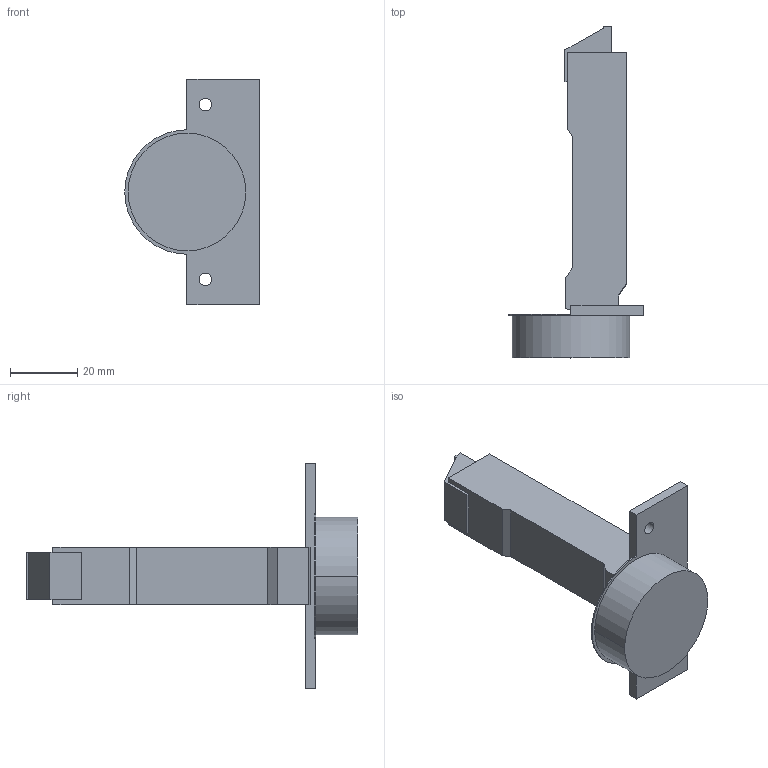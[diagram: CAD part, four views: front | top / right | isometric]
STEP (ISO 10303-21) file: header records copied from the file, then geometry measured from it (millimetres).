
FILE_DESCRIPTION (( 'STEP AP214' ), '1' );
FILE_NAME ('Scharnier T Click-on 95° H_BB, K03.step', '2018-10-02T12:11:58', ( '' ), ( '' ), 'SwSTEP 2.0', 'SolidWorks 2017', '' );
FILE_SCHEMA (( 'AUTOMOTIVE_DESIGN' ));
Length unit declared in the file: millimetre
Products named in the file (1): Scharnier T Click-on 95° H_BB, K03
Bounding box: 40 x 98.7 x 67 mm (x, y, z)
Volume: 38694.7 mm3; surface area: 11465.1 mm2
Topology: 1 solids, 1 shells, 46 faces, 120 edges, 80 vertices
Faces by surface type: plane 33, cylinder 13
Entity records: 1452 total; most frequent: CARTESIAN_POINT 247, DIRECTION 240, ORIENTED_EDGE 240, EDGE_CURVE 120, VECTOR 94, LINE 94, VERTEX_POINT 80, AXIS2_PLACEMENT_3D 73
